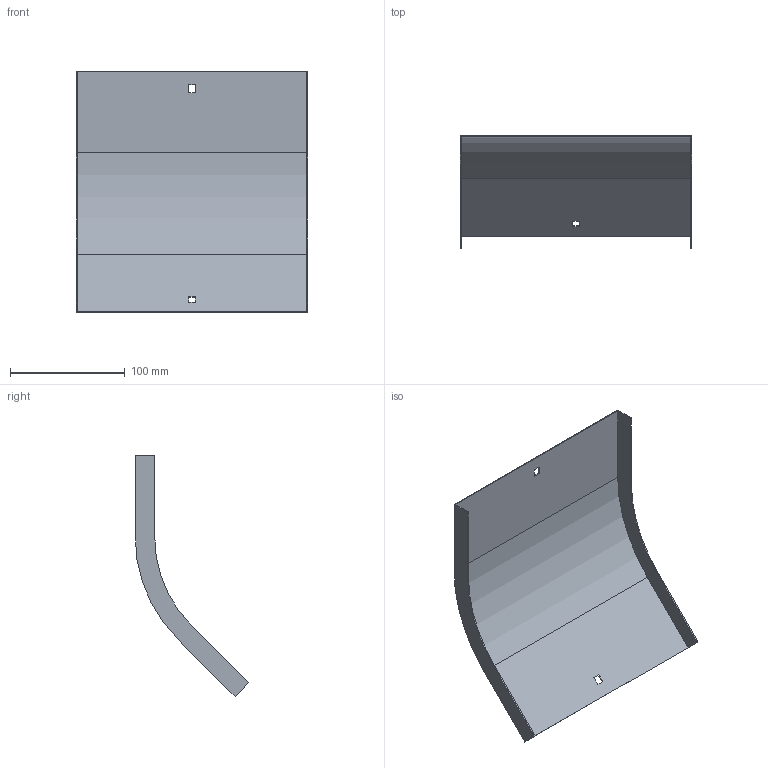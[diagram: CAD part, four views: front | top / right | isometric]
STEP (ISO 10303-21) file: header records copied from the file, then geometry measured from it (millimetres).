
FILE_DESCRIPTION (( 'STEP AP214' ), '1' );
FILE_NAME ('OD4_207.step', '2025-07-16T09:11:43', ( '' ), ( '' ), 'SwSTEP 2.0', 'SolidWorks 2023', '' );
FILE_SCHEMA (( 'AUTOMOTIVE_DESIGN' ));
Length unit declared in the file: millimetre
Products named in the file (1): OD4_207
Bounding box: 202 x 99.13 x 210.3 mm (x, y, z)
Volume: 55995.2 mm3; surface area: 112966.3 mm2
Topology: 1 solids, 1 shells, 26 faces, 72 edges, 48 vertices
Faces by surface type: plane 22, cylinder 4
Entity records: 855 total; most frequent: CARTESIAN_POINT 147, ORIENTED_EDGE 144, DIRECTION 134, EDGE_CURVE 72, LINE 64, VECTOR 64, VERTEX_POINT 48, AXIS2_PLACEMENT_3D 35
